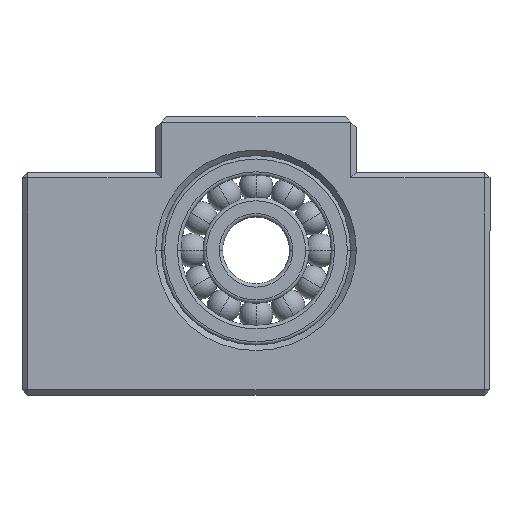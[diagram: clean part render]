
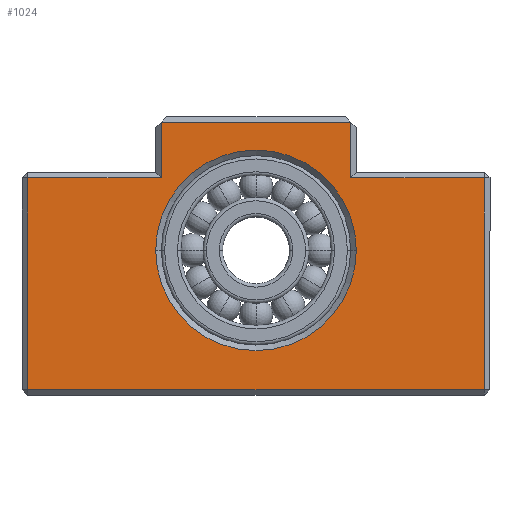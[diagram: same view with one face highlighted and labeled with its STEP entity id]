
A CAD part, top view. The second image highlights one B-rep face of the part: STEP entity #1024.
In plain terms, the highlighted planar face has unit normal (0, 0, 1).
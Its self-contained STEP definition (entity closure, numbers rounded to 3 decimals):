
#7 = DIRECTION ( 'NONE',  ( 0., 0., 1. ) ) ;
#34 = LINE ( 'NONE', #1500, #754 ) ;
#45 = CARTESIAN_POINT ( 'NONE',  ( -21., 19.5, 6. ) ) ;
#93 = VECTOR ( 'NONE', #1797, 1000. ) ;
#160 = CARTESIAN_POINT ( 'NONE',  ( 8.5, 24., 6. ) ) ;
#168 = LINE ( 'NONE', #2038, #2542 ) ;
#184 = EDGE_CURVE ( 'NONE', #2092, #2395, #715, .T. ) ;
#251 = EDGE_CURVE ( 'NONE', #2863, #2092, #34, .T. ) ;
#423 = CARTESIAN_POINT ( 'NONE',  ( 21., 20., 6. ) ) ;
#432 = PLANE ( 'NONE',  #764 ) ;
#457 = EDGE_CURVE ( 'NONE', #1795, #1946, #2434, .T. ) ;
#471 = EDGE_CURVE ( 'NONE', #2139, #2863, #720, .T. ) ;
#550 = ORIENTED_EDGE ( 'NONE', *, *, #568, .T. ) ;
#558 = EDGE_CURVE ( 'NONE', #589, #2928, #1332, .T. ) ;
#564 = EDGE_CURVE ( 'NONE', #2928, #2787, #2846, .T. ) ;
#568 = EDGE_CURVE ( 'NONE', #1946, #1795, #1094, .T. ) ;
#574 = CARTESIAN_POINT ( 'NONE',  ( -8.5, 19.5, 6. ) ) ;
#589 = VERTEX_POINT ( 'NONE', #2996 ) ;
#591 = EDGE_LOOP ( 'NONE', ( #882, #550 ) ) ;
#715 = LINE ( 'NONE', #1787, #948 ) ;
#720 = LINE ( 'NONE', #1633, #1298 ) ;
#722 = ORIENTED_EDGE ( 'NONE', *, *, #564, .T. ) ;
#754 = VECTOR ( 'NONE', #1912, 1000. ) ;
#764 = AXIS2_PLACEMENT_3D ( 'NONE', #423, #7, #1690 ) ;
#803 = VECTOR ( 'NONE', #2155, 1000. ) ;
#882 = ORIENTED_EDGE ( 'NONE', *, *, #457, .T. ) ;
#888 = CARTESIAN_POINT ( 'NONE',  ( -20.5, 0.5, 6. ) ) ;
#948 = VECTOR ( 'NONE', #2268, 1000. ) ;
#968 = ORIENTED_EDGE ( 'NONE', *, *, #471, .T. ) ;
#1024 = ADVANCED_FACE ( 'NONE', ( #3000, #2507 ), #432, .T. ) ;
#1082 = CARTESIAN_POINT ( 'NONE',  ( 0., 13., 6. ) ) ;
#1094 = CIRCLE ( 'NONE', #2862, 9. ) ;
#1106 = AXIS2_PLACEMENT_3D ( 'NONE', #1082, #2378, #2565 ) ;
#1169 = ORIENTED_EDGE ( 'NONE', *, *, #184, .T. ) ;
#1259 = CARTESIAN_POINT ( 'NONE',  ( 20.5, 19.5, 6. ) ) ;
#1298 = VECTOR ( 'NONE', #2472, 1000. ) ;
#1322 = EDGE_LOOP ( 'NONE', ( #1980, #1481, #722, #2292, #1412, #968, #2772, #1169 ) ) ;
#1332 = LINE ( 'NONE', #160, #803 ) ;
#1396 = LINE ( 'NONE', #2411, #93 ) ;
#1407 = DIRECTION ( 'NONE',  ( 1., 0., 0. ) ) ;
#1412 = ORIENTED_EDGE ( 'NONE', *, *, #1436, .T. ) ;
#1436 = EDGE_CURVE ( 'NONE', #1753, #2139, #2392, .T. ) ;
#1481 = ORIENTED_EDGE ( 'NONE', *, *, #558, .T. ) ;
#1500 = CARTESIAN_POINT ( 'NONE',  ( 21., 0.5, 6. ) ) ;
#1579 = CARTESIAN_POINT ( 'NONE',  ( 9., 13., 6. ) ) ;
#1633 = CARTESIAN_POINT ( 'NONE',  ( -20.5, 0., 6. ) ) ;
#1690 = DIRECTION ( 'NONE',  ( 1., 0., 0. ) ) ;
#1710 = DIRECTION ( 'NONE',  ( -1., 0., 0. ) ) ;
#1753 = VERTEX_POINT ( 'NONE', #574 ) ;
#1777 = CARTESIAN_POINT ( 'NONE',  ( 8.5, 24.5, 6. ) ) ;
#1782 = VECTOR ( 'NONE', #1710, 1000. ) ;
#1787 = CARTESIAN_POINT ( 'NONE',  ( 20.5, 20., 6. ) ) ;
#1795 = VERTEX_POINT ( 'NONE', #1579 ) ;
#1797 = DIRECTION ( 'NONE',  ( -1., 0., 0. ) ) ;
#1912 = DIRECTION ( 'NONE',  ( 1., 0., 0. ) ) ;
#1943 = CARTESIAN_POINT ( 'NONE',  ( 20.5, 0.5, 6. ) ) ;
#1946 = VERTEX_POINT ( 'NONE', #2743 ) ;
#1980 = ORIENTED_EDGE ( 'NONE', *, *, #2375, .T. ) ;
#2015 = VECTOR ( 'NONE', #2161, 1000. ) ;
#2038 = CARTESIAN_POINT ( 'NONE',  ( -8.5, 20., 6. ) ) ;
#2092 = VERTEX_POINT ( 'NONE', #1943 ) ;
#2139 = VERTEX_POINT ( 'NONE', #2547 ) ;
#2155 = DIRECTION ( 'NONE',  ( 0., 1., 0. ) ) ;
#2159 = CARTESIAN_POINT ( 'NONE',  ( -8., 24.5, 6. ) ) ;
#2161 = DIRECTION ( 'NONE',  ( -1., 0., 0. ) ) ;
#2176 = CARTESIAN_POINT ( 'NONE',  ( -8.5, 24.5, 6. ) ) ;
#2265 = DIRECTION ( 'NONE',  ( 0., -1., 0. ) ) ;
#2268 = DIRECTION ( 'NONE',  ( 0., 1., 0. ) ) ;
#2292 = ORIENTED_EDGE ( 'NONE', *, *, #2354, .T. ) ;
#2354 = EDGE_CURVE ( 'NONE', #2787, #1753, #168, .T. ) ;
#2375 = EDGE_CURVE ( 'NONE', #2395, #589, #1396, .T. ) ;
#2378 = DIRECTION ( 'NONE',  ( 0., 0., -1. ) ) ;
#2392 = LINE ( 'NONE', #45, #1782 ) ;
#2395 = VERTEX_POINT ( 'NONE', #1259 ) ;
#2411 = CARTESIAN_POINT ( 'NONE',  ( 9., 19.5, 6. ) ) ;
#2434 = CIRCLE ( 'NONE', #1106, 9. ) ;
#2472 = DIRECTION ( 'NONE',  ( 0., -1., 0. ) ) ;
#2507 = FACE_OUTER_BOUND ( 'NONE', #1322, .T. ) ;
#2542 = VECTOR ( 'NONE', #2265, 1000. ) ;
#2547 = CARTESIAN_POINT ( 'NONE',  ( -20.5, 19.5, 6. ) ) ;
#2553 = CARTESIAN_POINT ( 'NONE',  ( 0., 13., 6. ) ) ;
#2565 = DIRECTION ( 'NONE',  ( 1., 0., 0. ) ) ;
#2743 = CARTESIAN_POINT ( 'NONE',  ( -9., 13., 6. ) ) ;
#2772 = ORIENTED_EDGE ( 'NONE', *, *, #251, .T. ) ;
#2775 = DIRECTION ( 'NONE',  ( 0., 0., -1. ) ) ;
#2787 = VERTEX_POINT ( 'NONE', #2176 ) ;
#2846 = LINE ( 'NONE', #2159, #2015 ) ;
#2862 = AXIS2_PLACEMENT_3D ( 'NONE', #2553, #2775, #1407 ) ;
#2863 = VERTEX_POINT ( 'NONE', #888 ) ;
#2928 = VERTEX_POINT ( 'NONE', #1777 ) ;
#2996 = CARTESIAN_POINT ( 'NONE',  ( 8.5, 19.5, 6. ) ) ;
#3000 = FACE_BOUND ( 'NONE', #591, .T. ) ;
